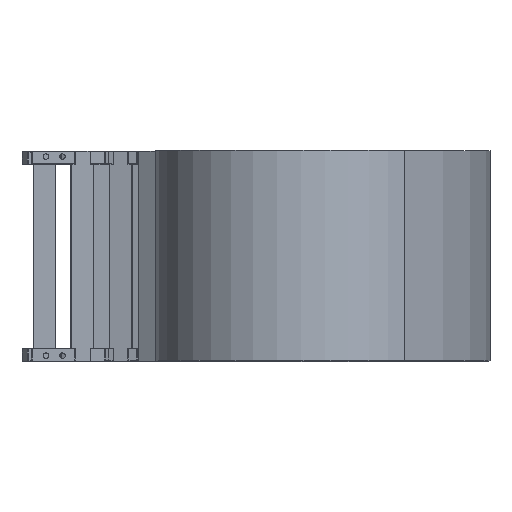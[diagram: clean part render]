
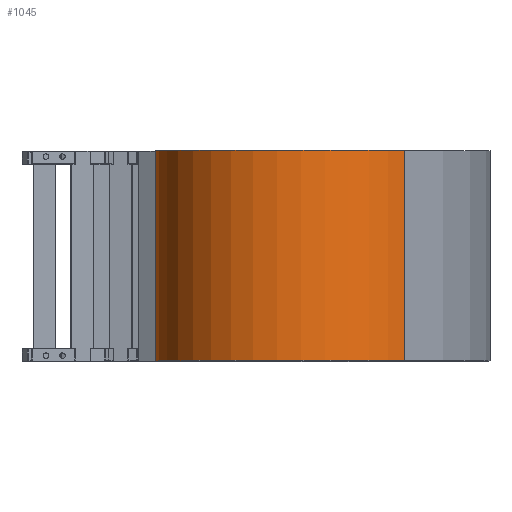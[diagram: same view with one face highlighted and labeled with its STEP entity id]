
A CAD part, top view. The second image highlights one B-rep face of the part: STEP entity #1045.
In plain terms, the highlighted cylindrical face has radius 150 mm (diameter 300 mm), a partial arc.
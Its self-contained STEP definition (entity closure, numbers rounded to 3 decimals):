
#1045 = ADVANCED_FACE( '', ( #2124 ), #2125, .T. );
#2124 = FACE_OUTER_BOUND( '', #3230, .T. );
#2125 = CYLINDRICAL_SURFACE( '', #3231, 150. );
#3230 = EDGE_LOOP( '', ( #6309, #6310, #6311, #6312 ) );
#3231 = AXIS2_PLACEMENT_3D( '', #6313, #6314, #6315 );
#6309 = ORIENTED_EDGE( '', *, *, #6935, .T. );
#6310 = ORIENTED_EDGE( '', *, *, #7612, .F. );
#6311 = ORIENTED_EDGE( '', *, *, #7630, .F. );
#6312 = ORIENTED_EDGE( '', *, *, #8004, .T. );
#6313 = CARTESIAN_POINT( '', ( 247.117, 114., 187.171 ) );
#6314 = DIRECTION( '', ( 0., 1., 0. ) );
#6315 = DIRECTION( '', ( 0., 0., -1. ) );
#6935 = EDGE_CURVE( '', #8406, #8404, #8407, .T. );
#7612 = EDGE_CURVE( '', #9513, #8404, #9515, .T. );
#7630 = EDGE_CURVE( '', #9537, #9513, #9539, .T. );
#8004 = EDGE_CURVE( '', #9537, #8406, #10018, .T. );
#8404 = VERTEX_POINT( '', #10521 );
#8406 = VERTEX_POINT( '', #10523 );
#8407 = CIRCLE( '', #10524, 150. );
#9513 = VERTEX_POINT( '', #12086 );
#9515 = LINE( '', #12088, #12089 );
#9537 = VERTEX_POINT( '', #12121 );
#9539 = CIRCLE( '', #12123, 150. );
#10018 = LINE( '', #12819, #12820 );
#10521 = CARTESIAN_POINT( '', ( 366.69, -114., 277.738 ) );
#10523 = CARTESIAN_POINT( '', ( 127.544, -114., 96.604 ) );
#10524 = AXIS2_PLACEMENT_3D( '', #13169, #13170, #13171 );
#12086 = CARTESIAN_POINT( '', ( 366.69, 114., 277.738 ) );
#12088 = CARTESIAN_POINT( '', ( 366.69, 114., 277.738 ) );
#12089 = VECTOR( '', #13919, 1000. );
#12121 = CARTESIAN_POINT( '', ( 127.544, 114., 96.604 ) );
#12123 = AXIS2_PLACEMENT_3D( '', #13939, #13940, #13941 );
#12819 = CARTESIAN_POINT( '', ( 127.544, 114., 96.604 ) );
#12820 = VECTOR( '', #14300, 1000. );
#13169 = CARTESIAN_POINT( '', ( 247.117, -114., 187.171 ) );
#13170 = DIRECTION( '', ( 0., 1., 0. ) );
#13171 = DIRECTION( '', ( 1., 0., 0. ) );
#13919 = DIRECTION( '', ( 0., -1., 0. ) );
#13939 = CARTESIAN_POINT( '', ( 247.117, 114., 187.171 ) );
#13940 = DIRECTION( '', ( 0., 1., 0. ) );
#13941 = DIRECTION( '', ( 1., 0., 0. ) );
#14300 = DIRECTION( '', ( 0., -1., 0. ) );
